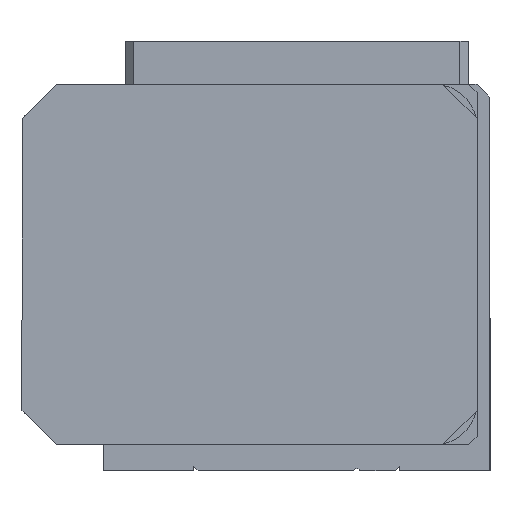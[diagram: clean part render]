
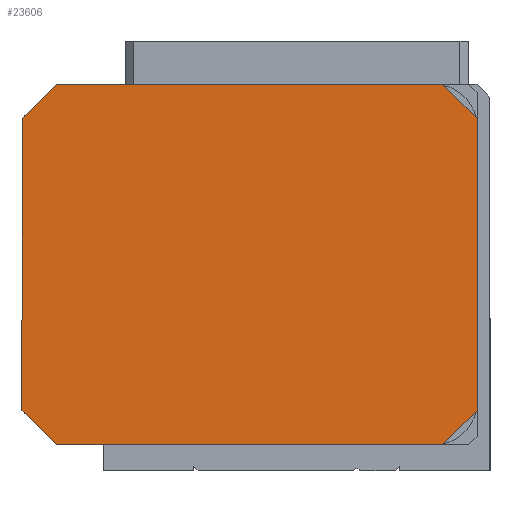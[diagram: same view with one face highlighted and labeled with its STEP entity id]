
A CAD part, left-side view. The second image highlights one B-rep face of the part: STEP entity #23606.
In plain terms, the highlighted planar face has unit normal (-1, 0, 0).
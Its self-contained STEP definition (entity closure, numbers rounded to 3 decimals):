
#22882=CARTESIAN_POINT('',(0.0,-21.,28.));
#22883=VERTEX_POINT('',#22882);
#22890=CARTESIAN_POINT('',(0.0,-21.0,-17.0));
#22891=VERTEX_POINT('',#22890);
#22892=CARTESIAN_POINT('',(0.0,-21.0,-17.0));
#22893=DIRECTION('',(0.0,0.0,1.0));
#22894=VECTOR('',#22893,45.);
#22895=LINE('',#22892,#22894);
#22896=EDGE_CURVE('',#22891,#22883,#22895,.T.);
#23283=CARTESIAN_POINT('',(0.0,21.0,28.));
#23284=VERTEX_POINT('',#23283);
#23291=CARTESIAN_POINT('',(0.0,17.0,32.));
#23292=VERTEX_POINT('',#23291);
#23293=CARTESIAN_POINT('',(0.0,17.0,32.));
#23294=DIRECTION('',(0.0,0.707,-0.707));
#23295=VECTOR('',#23294,5.657);
#23296=LINE('',#23293,#23295);
#23297=EDGE_CURVE('',#23292,#23284,#23296,.T.);
#23324=CARTESIAN_POINT('',(0.0,17.,-21.0));
#23325=VERTEX_POINT('',#23324);
#23332=CARTESIAN_POINT('',(0.0,21.0,-17.0));
#23333=VERTEX_POINT('',#23332);
#23334=CARTESIAN_POINT('',(0.0,21.0,-17.0));
#23335=DIRECTION('',(0.0,-0.707,-0.707));
#23336=VECTOR('',#23335,5.657);
#23337=LINE('',#23334,#23336);
#23338=EDGE_CURVE('',#23333,#23325,#23337,.T.);
#23380=CARTESIAN_POINT('',(0.0,-17.,-21.0));
#23381=VERTEX_POINT('',#23380);
#23382=CARTESIAN_POINT('',(0.0,-17.,-21.0));
#23383=DIRECTION('',(0.0,-0.707,0.707));
#23384=VECTOR('',#23383,5.657);
#23385=LINE('',#23382,#23384);
#23386=EDGE_CURVE('',#23381,#22891,#23385,.T.);
#23413=CARTESIAN_POINT('',(0.0,-17.,32.));
#23414=VERTEX_POINT('',#23413);
#23421=CARTESIAN_POINT('',(0.0,-21.,28.));
#23422=DIRECTION('',(0.0,0.707,0.707));
#23423=VECTOR('',#23422,5.657);
#23424=LINE('',#23421,#23423);
#23425=EDGE_CURVE('',#22883,#23414,#23424,.T.);
#23470=CARTESIAN_POINT('',(0.0,21.0,28.));
#23471=DIRECTION('',(0.0,0.0,-1.0));
#23472=VECTOR('',#23471,45.);
#23473=LINE('',#23470,#23472);
#23474=EDGE_CURVE('',#23284,#23333,#23473,.T.);
#23581=CARTESIAN_POINT('',(0.,0.0,32.));
#23582=DIRECTION('',(-1.0,0.0,0.0));
#23583=DIRECTION('',(0.0,0.0,1.0));
#23584=AXIS2_PLACEMENT_3D('',#23581,#23582,#23583);
#23585=PLANE('',#23584);
#23586=ORIENTED_EDGE('',*,*,#23297,.T.);
#23587=ORIENTED_EDGE('',*,*,#23474,.T.);
#23588=ORIENTED_EDGE('',*,*,#23338,.T.);
#23589=CARTESIAN_POINT('',(0.0,17.,-21.0));
#23590=DIRECTION('',(0.0,-1.0,0.0));
#23591=VECTOR('',#23590,34.);
#23592=LINE('',#23589,#23591);
#23593=EDGE_CURVE('',#23325,#23381,#23592,.T.);
#23594=ORIENTED_EDGE('',*,*,#23593,.T.);
#23595=ORIENTED_EDGE('',*,*,#23386,.T.);
#23596=ORIENTED_EDGE('',*,*,#22896,.T.);
#23597=ORIENTED_EDGE('',*,*,#23425,.T.);
#23598=CARTESIAN_POINT('',(0.0,-17.,32.));
#23599=DIRECTION('',(0.0,1.0,0.0));
#23600=VECTOR('',#23599,34.);
#23601=LINE('',#23598,#23600);
#23602=EDGE_CURVE('',#23414,#23292,#23601,.T.);
#23603=ORIENTED_EDGE('',*,*,#23602,.T.);
#23604=EDGE_LOOP('',(#23586,#23587,#23588,#23594,#23595,#23596,#23597,#23603));
#23605=FACE_OUTER_BOUND('',#23604,.T.);
#23606=ADVANCED_FACE('',(#23605),#23585,.T.);
